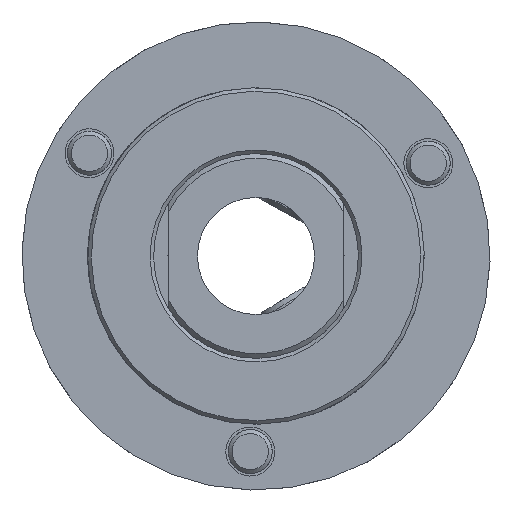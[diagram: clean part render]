
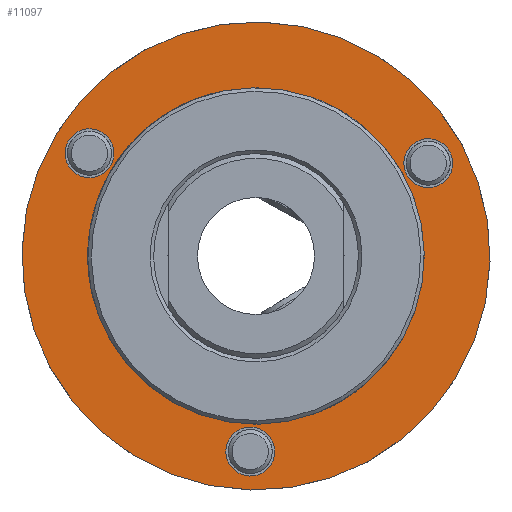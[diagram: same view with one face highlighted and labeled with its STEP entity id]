
A CAD part, front view. The second image highlights one B-rep face of the part: STEP entity #11097.
In plain terms, the highlighted planar face has unit normal (0, -1, 0).
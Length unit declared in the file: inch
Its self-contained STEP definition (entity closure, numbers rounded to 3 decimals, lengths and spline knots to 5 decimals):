
#10962=CARTESIAN_POINT('',(-0.2343,0.63136,-0.83599));
#10963=VERTEX_POINT('',#10962);
#10964=CARTESIAN_POINT('',(-0.3388,0.63136,-0.83599));
#10965=DIRECTION('',(0.0,1.0,0.0));
#10966=DIRECTION('',(-1.0,0.0,0.0));
#10967=AXIS2_PLACEMENT_3D('',#10964,#10965,#10966);
#10968=CIRCLE('',#10967,0.1045);
#10969=EDGE_CURVE('',#10963,#10963,#10968,.T.);
#10990=CARTESIAN_POINT('',(-0.95118,0.63136,0.4221));
#10991=VERTEX_POINT('',#10990);
#10992=CARTESIAN_POINT('',(-1.05568,0.63136,0.4221));
#10993=DIRECTION('',(0.0,1.0,0.0));
#10994=DIRECTION('',(-1.0,0.0,0.0));
#10995=AXIS2_PLACEMENT_3D('',#10992,#10993,#10994);
#10996=CIRCLE('',#10995,0.1045);
#10997=EDGE_CURVE('',#10991,#10991,#10996,.T.);
#11018=CARTESIAN_POINT('',(0.49679,0.63136,0.41389));
#11019=VERTEX_POINT('',#11018);
#11020=CARTESIAN_POINT('',(0.39229,0.63136,0.41389));
#11021=DIRECTION('',(0.0,1.0,0.0));
#11022=DIRECTION('',(-1.0,0.0,0.0));
#11023=AXIS2_PLACEMENT_3D('',#11020,#11021,#11022);
#11024=CIRCLE('',#11023,0.1045);
#11025=EDGE_CURVE('',#11019,#11019,#11024,.T.);
#11046=CARTESIAN_POINT('',(0.66593,0.63136,0.0));
#11047=VERTEX_POINT('',#11046);
#11048=CARTESIAN_POINT('',(-0.33407,0.63136,0.0));
#11049=DIRECTION('',(0.0,-1.0,0.0));
#11050=DIRECTION('',(1.0,0.0,0.0));
#11051=AXIS2_PLACEMENT_3D('',#11048,#11049,#11050);
#11052=CIRCLE('',#11051,1.0);
#11053=EDGE_CURVE('',#11047,#11047,#11052,.T.);
#11069=CARTESIAN_POINT('',(0.40018,0.63136,0.0));
#11070=DIRECTION('',(0.0,-1.0,0.0));
#11071=DIRECTION('',(0.0,0.0,-1.0));
#11072=AXIS2_PLACEMENT_3D('',#11069,#11070,#11071);
#11073=PLANE('',#11072);
#11074=ORIENTED_EDGE('',*,*,#11053,.T.);
#11075=EDGE_LOOP('',(#11074));
#11076=FACE_OUTER_BOUND('',#11075,.T.);
#11077=ORIENTED_EDGE('',*,*,#10969,.T.);
#11078=EDGE_LOOP('',(#11077));
#11079=FACE_BOUND('',#11078,.T.);
#11080=ORIENTED_EDGE('',*,*,#10997,.T.);
#11081=EDGE_LOOP('',(#11080));
#11082=FACE_BOUND('',#11081,.T.);
#11083=ORIENTED_EDGE('',*,*,#11025,.T.);
#11084=EDGE_LOOP('',(#11083));
#11085=FACE_BOUND('',#11084,.T.);
#11086=CARTESIAN_POINT('',(0.13443,0.63136,0.0));
#11087=VERTEX_POINT('',#11086);
#11088=CARTESIAN_POINT('',(-0.33407,0.63136,0.0));
#11089=DIRECTION('',(0.0,-1.0,0.0));
#11090=DIRECTION('',(1.0,0.0,0.0));
#11091=AXIS2_PLACEMENT_3D('',#11088,#11089,#11090);
#11092=CIRCLE('',#11091,0.4685);
#11093=EDGE_CURVE('',#11087,#11087,#11092,.T.);
#11094=ORIENTED_EDGE('',*,*,#11093,.F.);
#11095=EDGE_LOOP('',(#11094));
#11096=FACE_BOUND('',#11095,.T.);
#11097=ADVANCED_FACE('',(#11076,#11079,#11082,#11085,#11096),#11073,.T.);
